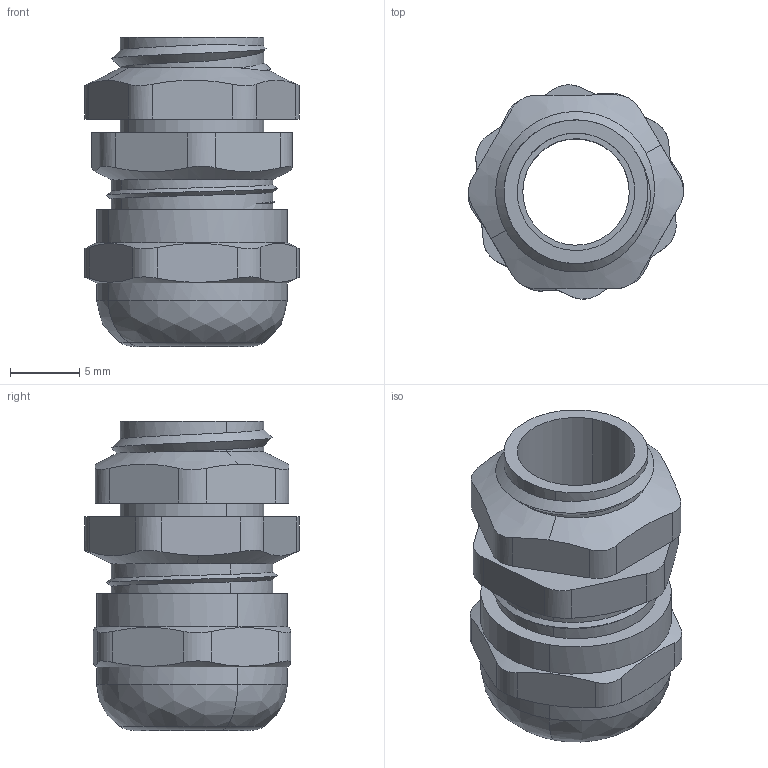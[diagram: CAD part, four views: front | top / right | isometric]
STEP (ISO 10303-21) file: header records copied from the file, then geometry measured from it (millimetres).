
FILE_DESCRIPTION(('CATIA V5 STEP Exchange'),'2;1');
FILE_NAME('C:\Users\Administrator\Desktop\m12-1.5tong.stp','2023-07-10T07:42:53+00:00',('none'),('none'),'CATIA Version 5 Release 21 GA (IN-10)','CATIA V5 STEP AP203','none');
FILE_SCHEMA(('CONFIG_CONTROL_DESIGN'));
Length unit declared in the file: millimetre
Products named in the file (1): Part8
Bounding box: 15.55 x 15.5 x 22.35 mm (x, y, z)
Volume: 1972.9 mm3; surface area: 1930.5 mm2
Topology: 1 solids, 1 shells, 75 faces, 203 edges, 141 vertices
Faces by surface type: cylinder 35, plane 24, cone 8, bspline 4, torus 2, revolution 2
Entity records: 3209 total; most frequent: CARTESIAN_POINT 1500, ORIENTED_EDGE 406, DIRECTION 234, EDGE_CURVE 203, VERTEX_POINT 134, AXIS2_PLACEMENT_3D 108, EDGE_LOOP 81, ADVANCED_FACE 75
